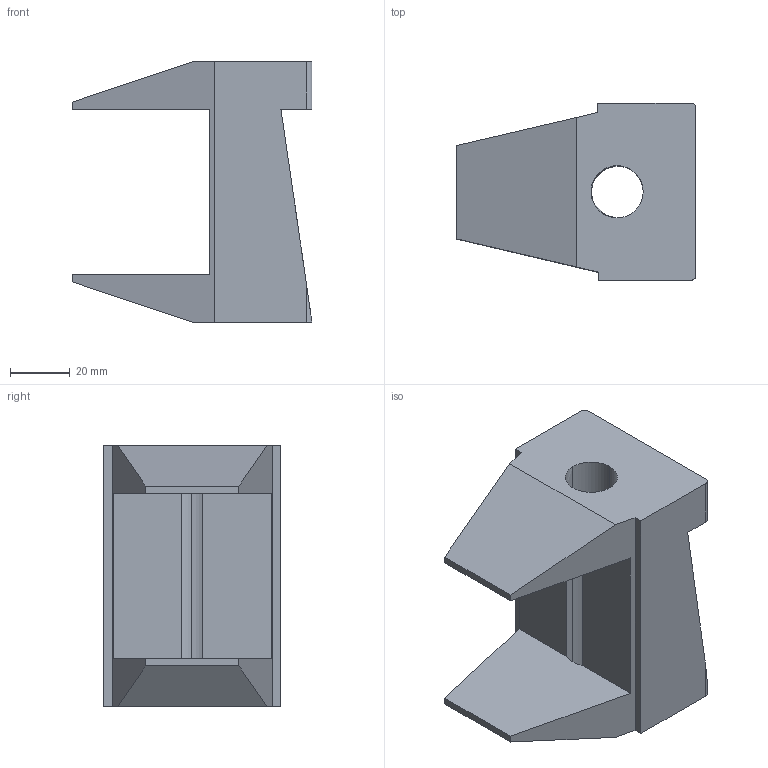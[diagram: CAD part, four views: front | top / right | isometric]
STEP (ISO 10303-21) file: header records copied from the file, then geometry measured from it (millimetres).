
FILE_DESCRIPTION(('TurboCAD Mac Pro'),'Build 980');
FILE_NAME('PLF3062.stp',' ',(''),(''),'ACIS Interop','IMSI','TurboCAD Mac Pro BY IMSI, INCORPORATED');
FILE_SCHEMA(('automotive_design'));
Length unit declared in the file: inch
Products named in the file (1): 1
Bounding box: 80.42 x 59.29 x 87.31 mm (x, y, z)
Volume: 175472.4 mm3; surface area: 32007.1 mm2
Topology: 1 solids, 1 shells, 27 faces, 81 edges, 54 vertices
Faces by surface type: plane 18, bspline 9
Entity records: 1241 total; most frequent: CARTESIAN_POINT 348, ORIENTED_EDGE 162, DIRECTION 89, EDGE_CURVE 81, VERTEX_POINT 54, LINE 51, VECTOR 51, B_SPLINE_CURVE_WITH_KNOTS 30
